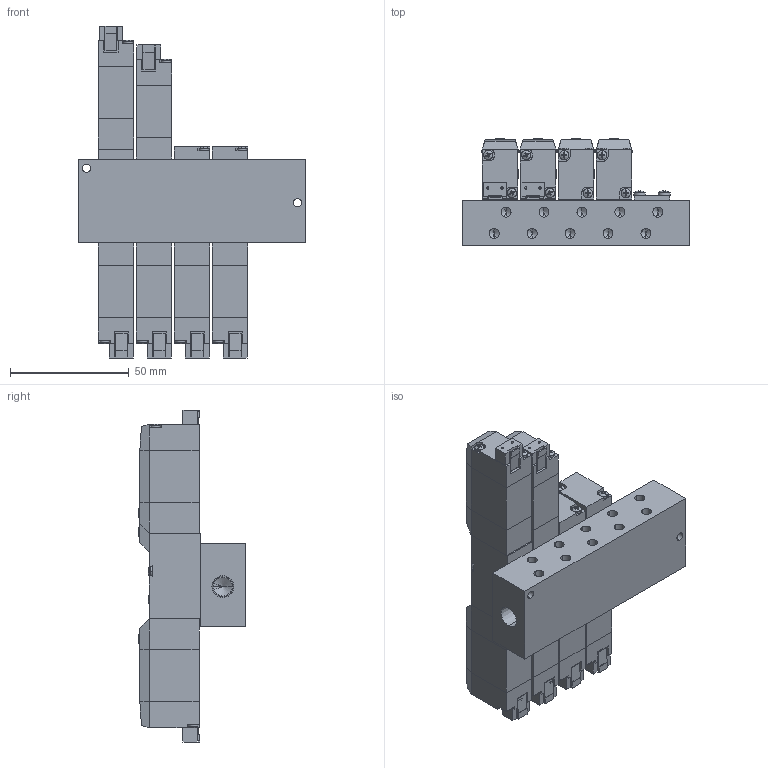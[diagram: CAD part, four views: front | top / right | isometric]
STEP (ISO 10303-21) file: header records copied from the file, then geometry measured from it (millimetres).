
FILE_DESCRIPTION (( 'STEP AP203' ), '1' );
FILE_NAME ('MFS#-PD5-M5-SP.STEP', '2016-02-04T03:32:30', ( 'Sam Lin' ), ( '' ), 'SwSTEP 2.0', 'SolidWorks 2013', '' );
FILE_SCHEMA (( 'CONFIG_CONTROL_DESIGN' ));
Length unit declared in the file: metre
Products named in the file (14): PC5-8; ISO 7045 - M2.5 x 25; PC5-10; PC5-2; PC5-9-345; ISO 7045 - M2 x 10; MFS#-PD5-M5; PC5-3; MFS#-PD5-M5-SP; PC5-5; PC-MARK; PC5-6; PC5-7; MFS-02
Assembly tree (68 placements, depth 2):
  MFS#-PD5-M5-SP
    MFS-02
    ISO 7045 - M2.5 x 25  x10
    PC5-2  x2
    ISO 7045 - M2 x 10  x16
    PC5-3  x3
    PC5-5  x6
    PC-MARK  x4
    PC5-6  x6
    PC5-7  x6
    PC5-8  x6
    PC5-10  x6
    PC5-9-345
    MFS#-PD5-M5
Bounding box: 96 x 45 x 140 mm (x, y, z)
Volume: 204634.4 mm3; surface area: 77513.6 mm2
Topology: 98 solids, 98 shells, 2341 faces, 5778 edges, 3602 vertices
Faces by surface type: plane 1445, cylinder 386, cone 322, bspline 188
Entity records: 16499 total; most frequent: CARTESIAN_POINT 2887, DIRECTION 2263, ORIENTED_EDGE 2134, EDGE_CURVE 1067, AXIS2_PLACEMENT_3D 789, VERTEX_POINT 691, VECTOR 685, LINE 685
